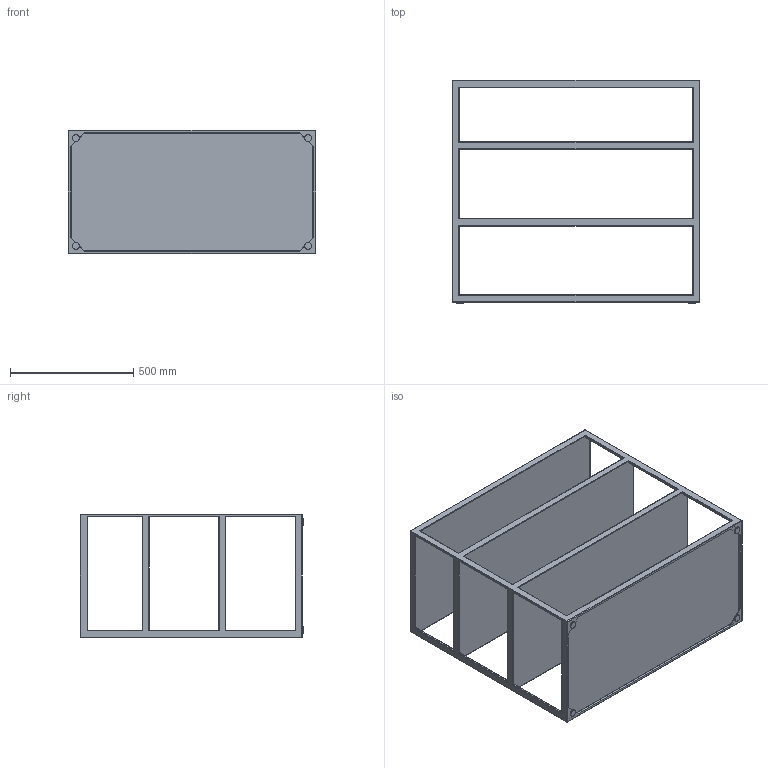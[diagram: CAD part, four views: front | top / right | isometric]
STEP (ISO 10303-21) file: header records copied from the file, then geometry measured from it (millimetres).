
FILE_DESCRIPTION(/* description */ (''),/* implementation_level */ '2;1');
FILE_NAME(/* name */ 'C:\INVENTOR\Workspace\# ARKITEKT FILER\Open Kitchen\OK Side Board 100\Open Kitchen Side Board 100 No Teak.stp',/* time_stamp */ '2020-05-05T08:21:22+02:00',/* author */ ('Röshults'),/* organization */ (''),/* preprocessor_version */ 'ST-DEVELOPER v17.2',/* originating_system */ 'Autodesk Inventor 2019',/* authorisation */ '');
FILE_SCHEMA (('AUTOMOTIVE_DESIGN { 1 0 10303 214 3 1 1 }','PROCESS_PLANNING_SCHEMA'));
Length unit declared in the file: millimetre
Products named in the file (3): Open Kitchen Side Board 100 No Teak; Open Kitchen Side Board 100; Open Hylla 100
Assembly tree (2 placements, depth 2):
  Open Kitchen Side Board 100 No Teak
    Open Kitchen Side Board 100
    Open Hylla 100
Bounding box: 1004 x 905 x 500 mm (x, y, z)
Volume: 57377499.4 mm3; surface area: 4820683.8 mm2
Topology: 2 solids, 2 shells, 221 faces, 528 edges, 308 vertices
Faces by surface type: cylinder 116, plane 89, sphere 16
Full cylindrical faces by diameter (mm): 28 x4
Entity records: 6412 total; most frequent: DIRECTION 1144, CARTESIAN_POINT 1062, ORIENTED_EDGE 1056, EDGE_CURVE 528, AXIS2_PLACEMENT_3D 390, LINE 364, VECTOR 364, VERTEX_POINT 308
